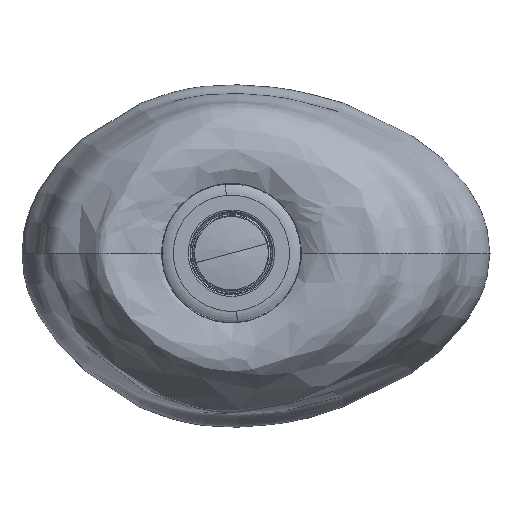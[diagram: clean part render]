
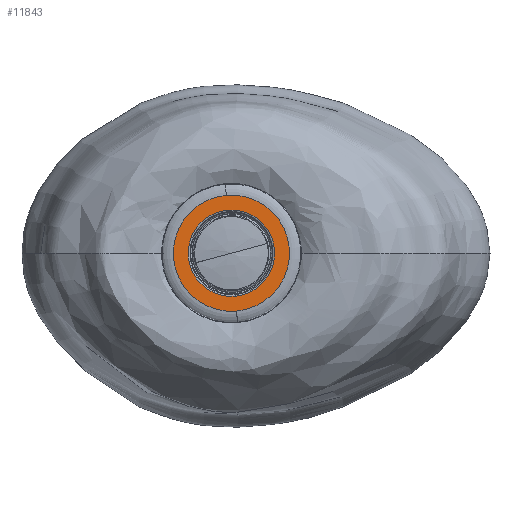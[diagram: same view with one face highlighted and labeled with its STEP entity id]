
A CAD part, front view. The second image highlights one B-rep face of the part: STEP entity #11843.
In plain terms, the highlighted planar face has unit normal (0, -1, 0).
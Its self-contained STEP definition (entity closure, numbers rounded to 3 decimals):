
#437 = VERTEX_POINT ( 'NONE', #34102 ) ;
#2366 = EDGE_LOOP ( 'NONE', ( #9235, #7115 ) ) ;
#3100 = AXIS2_PLACEMENT_3D ( 'NONE', #32436, #5561, #29473 ) ;
#4388 = VERTEX_POINT ( 'NONE', #34025 ) ;
#5442 = DIRECTION ( 'NONE',  ( -0.087, 0., 0.996 ) ) ;
#5480 = AXIS2_PLACEMENT_3D ( 'NONE', #34352, #13209, #13391 ) ;
#5561 = DIRECTION ( 'NONE',  ( 0., 1., 0. ) ) ;
#7115 = ORIENTED_EDGE ( 'NONE', *, *, #34575, .F. ) ;
#7405 = FACE_OUTER_BOUND ( 'NONE', #2366, .T. ) ;
#9235 = ORIENTED_EDGE ( 'NONE', *, *, #36740, .F. ) ;
#11666 = AXIS2_PLACEMENT_3D ( 'NONE', #12099, #21421, #14881 ) ;
#11843 = ADVANCED_FACE ( 'NONE', ( #25047, #7405 ), #25230, .F. ) ;
#12099 = CARTESIAN_POINT ( 'NONE',  ( 0., -38.5, 0. ) ) ;
#12421 = CIRCLE ( 'NONE', #5480, 66.2 ) ;
#13209 = DIRECTION ( 'NONE',  ( 0., 1., 0. ) ) ;
#13391 = DIRECTION ( 'NONE',  ( -0.087, 0., 0.996 ) ) ;
#14881 = DIRECTION ( 'NONE',  ( -0.087, 0., 0.996 ) ) ;
#17263 = ORIENTED_EDGE ( 'NONE', *, *, #36200, .T. ) ;
#17484 = ORIENTED_EDGE ( 'NONE', *, *, #20815, .T. ) ;
#20815 = EDGE_CURVE ( 'NONE', #33808, #4388, #32695, .T. ) ;
#21421 = DIRECTION ( 'NONE',  ( 0., 1., 0. ) ) ;
#21924 = EDGE_LOOP ( 'NONE', ( #17263, #17484 ) ) ;
#22466 = DIRECTION ( 'NONE',  ( 0., 1., 0. ) ) ;
#23637 = CARTESIAN_POINT ( 'NONE',  ( 0., -38.5, 0. ) ) ;
#23784 = AXIS2_PLACEMENT_3D ( 'NONE', #28366, #22466, #27793 ) ;
#25047 = FACE_BOUND ( 'NONE', #21924, .T. ) ;
#25083 = CIRCLE ( 'NONE', #38339, 89. ) ;
#25230 = PLANE ( 'NONE',  #23784 ) ;
#26172 = VERTEX_POINT ( 'NONE', #37395 ) ;
#26404 = DIRECTION ( 'NONE',  ( 0., 1., 0. ) ) ;
#27793 = DIRECTION ( 'NONE',  ( -0.087, 0., 0.996 ) ) ;
#28366 = CARTESIAN_POINT ( 'NONE',  ( 62.262, -38.5, 5.447 ) ) ;
#28717 = CIRCLE ( 'NONE', #11666, 89. ) ;
#29473 = DIRECTION ( 'NONE',  ( -0.087, 0., 0.996 ) ) ;
#32436 = CARTESIAN_POINT ( 'NONE',  ( 0., -38.5, 0. ) ) ;
#32695 = CIRCLE ( 'NONE', #3100, 66.2 ) ;
#33808 = VERTEX_POINT ( 'NONE', #38732 ) ;
#34025 = CARTESIAN_POINT ( 'NONE',  ( -5.77, -38.5, 65.948 ) ) ;
#34102 = CARTESIAN_POINT ( 'NONE',  ( -7.757, -38.5, 88.661 ) ) ;
#34352 = CARTESIAN_POINT ( 'NONE',  ( 0., -38.5, 0. ) ) ;
#34575 = EDGE_CURVE ( 'NONE', #26172, #437, #28717, .T. ) ;
#36200 = EDGE_CURVE ( 'NONE', #4388, #33808, #12421, .T. ) ;
#36740 = EDGE_CURVE ( 'NONE', #437, #26172, #25083, .T. ) ;
#37395 = CARTESIAN_POINT ( 'NONE',  ( 7.757, -38.5, -88.661 ) ) ;
#38339 = AXIS2_PLACEMENT_3D ( 'NONE', #23637, #26404, #5442 ) ;
#38732 = CARTESIAN_POINT ( 'NONE',  ( 5.77, -38.5, -65.948 ) ) ;
